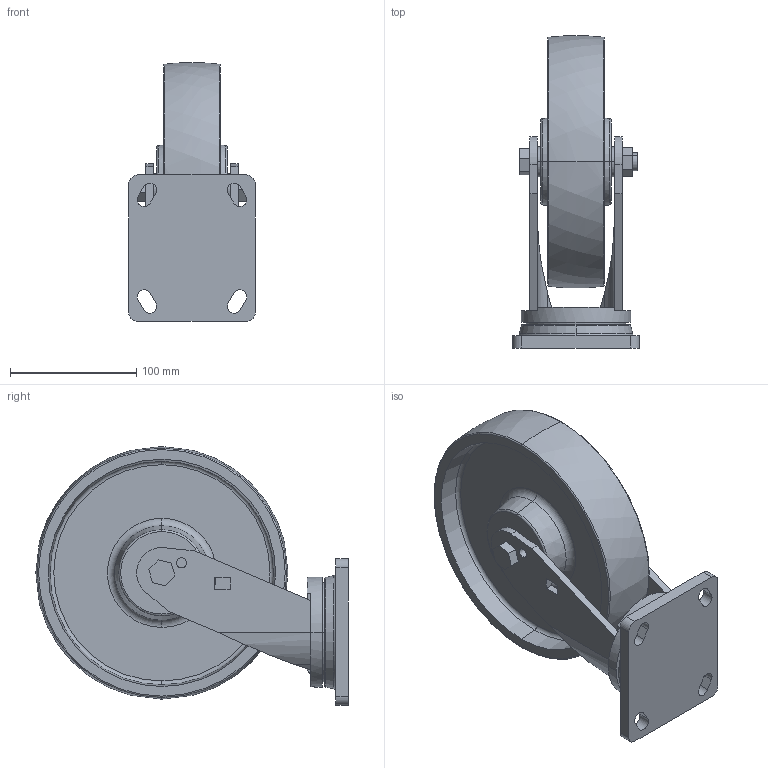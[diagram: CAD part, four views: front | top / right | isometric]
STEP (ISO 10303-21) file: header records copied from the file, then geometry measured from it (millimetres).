
FILE_DESCRIPTION((''),'2;1');
FILE_NAME('78118-788-96__ASM','2020-07-06T',('lenovo'),(''),'PRO/ENGINEER BY PARAMETRIC TECHNOLOGY CORPORATION, 2010280','PRO/ENGINEER BY PARAMETRIC TECHNOLOGY CORPORATION, 2010280','');
FILE_SCHEMA(('CONFIG_CONTROL_DESIGN'));
Length unit declared in the file: millimetre
Products named in the file (10): PRODUCT_1316; PRT0043; 788-96; PRT0044; 780-01B_; PRT0046; PRODUCT_3419; 78118-788-96__________ASM; _78118-788-96_____; 78118-788-96__ASM
Assembly tree (9 placements, depth 3):
  78118-788-96__ASM
    78118-788-96__________ASM
      PRODUCT_1316
      PRT0043
      788-96
      PRT0044
      780-01B_
      PRT0046
      PRODUCT_3419
    _78118-788-96_____
Bounding box: 100 x 247.35 x 205 mm (x, y, z)
Volume: 996979.1 mm3; surface area: 204383.4 mm2
Topology: 7 solids, 7 shells, 175 faces, 410 edges, 260 vertices
Faces by surface type: plane 83, cylinder 48, torus 26, cone 14, bspline 4
Entity records: 5485 total; most frequent: CARTESIAN_POINT 1049, DIRECTION 980, ORIENTED_EDGE 820, EDGE_CURVE 410, AXIS2_PLACEMENT_3D 383, VERTEX_POINT 260, VECTOR 214, LINE 214
